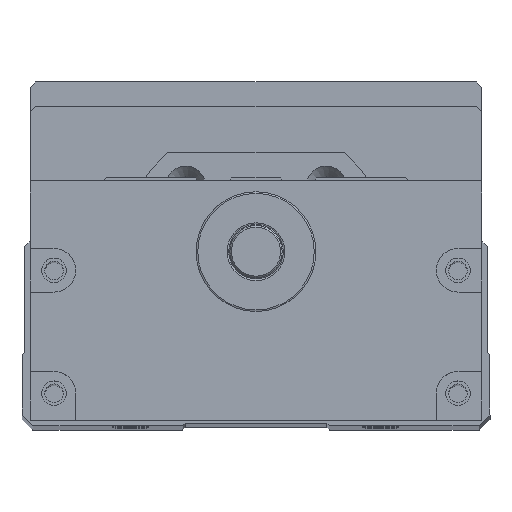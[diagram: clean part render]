
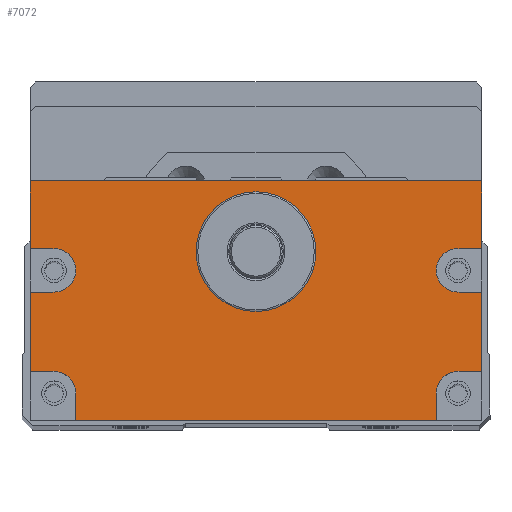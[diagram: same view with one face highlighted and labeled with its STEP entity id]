
A CAD part, top view. The second image highlights one B-rep face of the part: STEP entity #7072.
In plain terms, the highlighted planar face has unit normal (0, 0, 1).
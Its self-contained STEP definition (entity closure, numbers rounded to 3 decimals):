
#560=LINE('',#28080,#1268);
#562=LINE('',#28084,#1270);
#563=LINE('',#28087,#1271);
#564=LINE('',#28089,#1272);
#565=LINE('',#28093,#1273);
#566=LINE('',#28095,#1274);
#567=LINE('',#28096,#1275);
#568=LINE('',#28098,#1276);
#569=LINE('',#28102,#1277);
#570=LINE('',#28104,#1278);
#571=LINE('',#28106,#1279);
#572=LINE('',#28110,#1280);
#573=LINE('',#28112,#1281);
#574=LINE('',#28114,#1282);
#1268=VECTOR('',#16579,1.);
#1270=VECTOR('',#16583,1.);
#1271=VECTOR('',#16584,1.);
#1272=VECTOR('',#16585,1.);
#1273=VECTOR('',#16588,1.);
#1274=VECTOR('',#16589,1.);
#1275=VECTOR('',#16590,1.);
#1276=VECTOR('',#16591,1.);
#1277=VECTOR('',#16594,1.);
#1278=VECTOR('',#16595,1.);
#1279=VECTOR('',#16596,1.);
#1280=VECTOR('',#16599,1.);
#1281=VECTOR('',#16600,1.);
#1282=VECTOR('',#16601,1.);
#7072=ADVANCED_FACE('',(#7954,#7955),#7557,.T.);
#7557=PLANE('',#15072);
#7954=FACE_BOUND('',#8536,.T.);
#7955=FACE_BOUND('',#8537,.T.);
#8536=EDGE_LOOP('',(#10023,#10024,#10025,#10026,#10027,#10028,#10029,#10030,
#10031,#10032,#10033,#10034,#10035,#10036,#10037,#10038,#10039,#10040));
#8537=EDGE_LOOP('',(#10041));
#10023=ORIENTED_EDGE('',*,*,#13379,.F.);
#10024=ORIENTED_EDGE('',*,*,#13380,.T.);
#10025=ORIENTED_EDGE('',*,*,#13381,.F.);
#10026=ORIENTED_EDGE('',*,*,#13382,.F.);
#10027=ORIENTED_EDGE('',*,*,#13383,.F.);
#10028=ORIENTED_EDGE('',*,*,#13384,.T.);
#10029=ORIENTED_EDGE('',*,*,#13377,.T.);
#10030=ORIENTED_EDGE('',*,*,#13385,.T.);
#10031=ORIENTED_EDGE('',*,*,#13386,.F.);
#10032=ORIENTED_EDGE('',*,*,#13387,.F.);
#10033=ORIENTED_EDGE('',*,*,#13388,.F.);
#10034=ORIENTED_EDGE('',*,*,#13389,.T.);
#10035=ORIENTED_EDGE('',*,*,#13390,.F.);
#10036=ORIENTED_EDGE('',*,*,#13391,.F.);
#10037=ORIENTED_EDGE('',*,*,#13392,.F.);
#10038=ORIENTED_EDGE('',*,*,#13393,.T.);
#10039=ORIENTED_EDGE('',*,*,#13394,.F.);
#10040=ORIENTED_EDGE('',*,*,#13395,.F.);
#10041=ORIENTED_EDGE('',*,*,#13363,.T.);
#12237=VERTEX_POINT('',#28051);
#12250=VERTEX_POINT('',#28079);
#12251=VERTEX_POINT('',#28081);
#12252=VERTEX_POINT('',#28085);
#12253=VERTEX_POINT('',#28086);
#12254=VERTEX_POINT('',#28088);
#12255=VERTEX_POINT('',#28090);
#12256=VERTEX_POINT('',#28092);
#12257=VERTEX_POINT('',#28094);
#12258=VERTEX_POINT('',#28097);
#12259=VERTEX_POINT('',#28099);
#12260=VERTEX_POINT('',#28101);
#12261=VERTEX_POINT('',#28103);
#12262=VERTEX_POINT('',#28105);
#12263=VERTEX_POINT('',#28107);
#12264=VERTEX_POINT('',#28109);
#12265=VERTEX_POINT('',#28111);
#12266=VERTEX_POINT('',#28113);
#12267=VERTEX_POINT('',#28115);
#13363=EDGE_CURVE('',#12237,#12237,#14459,.T.);
#13377=EDGE_CURVE('',#12251,#12250,#560,.T.);
#13379=EDGE_CURVE('',#12252,#12253,#562,.T.);
#13380=EDGE_CURVE('',#12252,#12254,#563,.T.);
#13381=EDGE_CURVE('',#12255,#12254,#564,.T.);
#13382=EDGE_CURVE('',#12256,#12255,#14468,.T.);
#13383=EDGE_CURVE('',#12257,#12256,#565,.T.);
#13384=EDGE_CURVE('',#12257,#12251,#566,.T.);
#13385=EDGE_CURVE('',#12250,#12258,#567,.T.);
#13386=EDGE_CURVE('',#12259,#12258,#568,.T.);
#13387=EDGE_CURVE('',#12260,#12259,#14469,.T.);
#13388=EDGE_CURVE('',#12261,#12260,#569,.T.);
#13389=EDGE_CURVE('',#12261,#12262,#570,.T.);
#13390=EDGE_CURVE('',#12263,#12262,#571,.T.);
#13391=EDGE_CURVE('',#12264,#12263,#14470,.T.);
#13392=EDGE_CURVE('',#12265,#12264,#572,.T.);
#13393=EDGE_CURVE('',#12265,#12266,#573,.T.);
#13394=EDGE_CURVE('',#12267,#12266,#574,.T.);
#13395=EDGE_CURVE('',#12253,#12267,#14471,.T.);
#14459=CIRCLE('',#15056,11.);
#14468=CIRCLE('',#15068,4.);
#14469=CIRCLE('',#15069,4.);
#14470=CIRCLE('',#15070,4.);
#14471=CIRCLE('',#15071,4.);
#15056=AXIS2_PLACEMENT_3D('',#28050,#16552,#16553);
#15068=AXIS2_PLACEMENT_3D('',#28091,#16586,#16587);
#15069=AXIS2_PLACEMENT_3D('',#28100,#16592,#16593);
#15070=AXIS2_PLACEMENT_3D('',#28108,#16597,#16598);
#15071=AXIS2_PLACEMENT_3D('',#28116,#16602,#16603);
#15072=AXIS2_PLACEMENT_3D('',#28117,#16604,#16605);
#16552=DIRECTION('',(0.,0.,-1.));
#16553=DIRECTION('',(1.,0.,0.));
#16579=DIRECTION('',(-1.,0.,0.));
#16583=DIRECTION('',(-1.,0.,0.));
#16584=DIRECTION('',(0.,1.,0.));
#16585=DIRECTION('',(1.,0.,0.));
#16586=DIRECTION('',(0.,0.,1.));
#16587=DIRECTION('',(1.,0.,0.));
#16588=DIRECTION('',(-1.,0.,0.));
#16589=DIRECTION('',(0.,1.,0.));
#16590=DIRECTION('',(0.,-1.,0.));
#16591=DIRECTION('',(-1.,0.,0.));
#16592=DIRECTION('',(0.,0.,1.));
#16593=DIRECTION('',(1.,0.,0.));
#16594=DIRECTION('',(1.,0.,0.));
#16595=DIRECTION('',(0.,-1.,0.));
#16596=DIRECTION('',(-1.,0.,0.));
#16597=DIRECTION('',(0.,0.,1.));
#16598=DIRECTION('',(1.,0.,0.));
#16599=DIRECTION('',(0.,1.,0.));
#16600=DIRECTION('',(1.,0.,0.));
#16601=DIRECTION('',(0.,-1.,0.));
#16602=DIRECTION('',(0.,0.,1.));
#16603=DIRECTION('',(1.,0.,0.));
#16604=DIRECTION('',(0.,0.,1.));
#16605=DIRECTION('',(1.,0.,0.));
#28050=CARTESIAN_POINT('',(600.,0.,282.5));
#28051=CARTESIAN_POINT('',(611.,0.,282.5));
#28079=CARTESIAN_POINT('',(558.5,13.,282.5));
#28080=CARTESIAN_POINT('',(641.5,13.,282.5));
#28081=CARTESIAN_POINT('',(641.5,13.,282.5));
#28084=CARTESIAN_POINT('',(641.5,-22.,282.5));
#28085=CARTESIAN_POINT('',(641.5,-22.,282.5));
#28086=CARTESIAN_POINT('',(637.115,-22.,282.5));
#28087=CARTESIAN_POINT('',(641.5,-31.,282.5));
#28088=CARTESIAN_POINT('',(641.5,-7.431,282.5));
#28089=CARTESIAN_POINT('',(641.5,-7.431,282.5));
#28090=CARTESIAN_POINT('',(637.115,-7.431,282.5));
#28091=CARTESIAN_POINT('',(637.115,-3.431,282.5));
#28092=CARTESIAN_POINT('',(637.115,0.569,282.5));
#28093=CARTESIAN_POINT('',(641.5,0.569,282.5));
#28094=CARTESIAN_POINT('',(641.5,0.569,282.5));
#28095=CARTESIAN_POINT('',(641.5,-31.,282.5));
#28096=CARTESIAN_POINT('',(558.5,27.5,282.5));
#28097=CARTESIAN_POINT('',(558.5,0.569,282.5));
#28098=CARTESIAN_POINT('',(641.5,0.569,282.5));
#28099=CARTESIAN_POINT('',(562.885,0.569,282.5));
#28100=CARTESIAN_POINT('',(562.885,-3.431,282.5));
#28101=CARTESIAN_POINT('',(562.885,-7.431,282.5));
#28102=CARTESIAN_POINT('',(641.5,-7.431,282.5));
#28103=CARTESIAN_POINT('',(558.5,-7.431,282.5));
#28104=CARTESIAN_POINT('',(558.5,27.5,282.5));
#28105=CARTESIAN_POINT('',(558.5,-22.,282.5));
#28106=CARTESIAN_POINT('',(641.5,-22.,282.5));
#28107=CARTESIAN_POINT('',(562.885,-22.,282.5));
#28108=CARTESIAN_POINT('',(562.885,-26.,282.5));
#28109=CARTESIAN_POINT('',(566.885,-26.,282.5));
#28110=CARTESIAN_POINT('',(566.885,-31.,282.5));
#28111=CARTESIAN_POINT('',(566.885,-31.,282.5));
#28112=CARTESIAN_POINT('',(558.5,-31.,282.5));
#28113=CARTESIAN_POINT('',(633.115,-31.,282.5));
#28114=CARTESIAN_POINT('',(633.115,-31.,282.5));
#28115=CARTESIAN_POINT('',(633.115,-26.,282.5));
#28116=CARTESIAN_POINT('',(637.115,-26.,282.5));
#28117=CARTESIAN_POINT('',(641.5,-31.,282.5));
